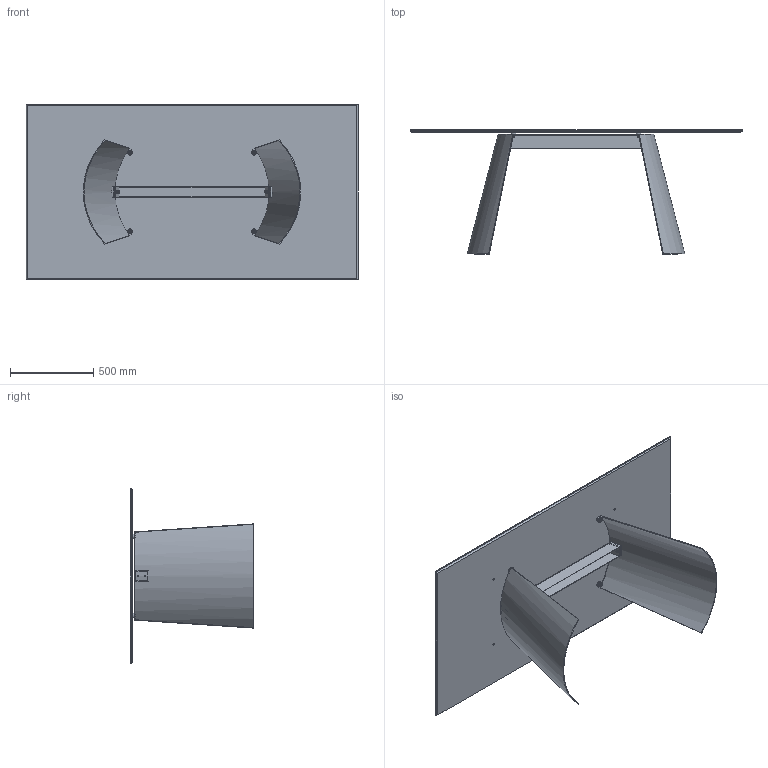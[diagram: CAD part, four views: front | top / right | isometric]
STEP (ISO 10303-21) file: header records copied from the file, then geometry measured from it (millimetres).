
FILE_DESCRIPTION (( 'STEP AP203' ), '1' );
FILE_NAME ('DN21C.STEP', '2024-08-07T14:55:42', ( '' ), ( '' ), 'SwSTEP 2.0', 'SolidWorks 2022', '' );
FILE_SCHEMA (( 'CONFIG_CONTROL_DESIGN' ));
Length unit declared in the file: millimetre
Products named in the file (14): DNB300000_03-02-PIASTRINA; DNBX00000-01-DORIAN TRAVERSO LXXXX PER TAVOLO LX00_L.970; 434070-00-PIEDINO TPV GOMMA NERO D. 30x8max18; SDNB300000-02-GAMBA X TRASP; K2XCMXX-00-Piani Rettangolari in ceramica_2000 x 1060; GRANO M8X35_barra; feltro Ø12x3; rondella M8_8X16; DN21C; rondella M8X24; DNB300000_01-02-GAMBA DORIAN; DNB400000-02-ASSIEME STRUTTURA COMPLETA_L.960; DNB300000_02-02-RISCONTRO STANGONE CENTRALE; nut_M8_M8
Assembly tree (37 placements, depth 4):
  DN21C
    K2XCMXX-00-Piani Rettangolari in ceramica_2000 x 1060
    DNB400000-02-ASSIEME STRUTTURA COMPLETA_L.960
      SDNB300000-02-GAMBA X TRASP  x2
        DNB300000_01-02-GAMBA DORIAN
        DNB300000_02-02-RISCONTRO STANGONE CENTRALE
        DNB300000_03-02-PIASTRINA
      DNBX00000-01-DORIAN TRAVERSO LXXXX PER TAVOLO LX00_L.970
    434070-00-PIEDINO TPV GOMMA NERO D. 30x8max18  x4
    nut_M8_M8  x8
    rondella M8X24  x4
    GRANO M8X35_barra  x4
    rondella M8_8X16  x4
    feltro Ø12x3  x4
Bounding box: 2000 x 746 x 1060 mm (x, y, z)
Volume: 39244601.7 mm3; surface area: 10945610.7 mm2
Topology: 45 solids, 45 shells, 560 faces, 1282 edges, 812 vertices
Faces by surface type: plane 234, cylinder 148, torus 80, cone 80, bspline 18
Entity records: 9419 total; most frequent: CARTESIAN_POINT 1897, DIRECTION 1151, ORIENTED_EDGE 1096, EDGE_CURVE 548, AXIS2_PLACEMENT_3D 414, VERTEX_POINT 356, VECTOR 323, LINE 323
